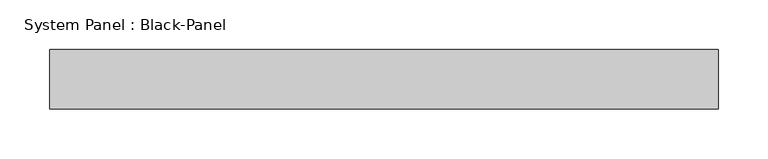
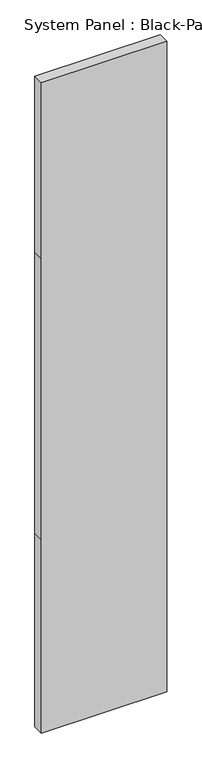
"""IFC4 building model written with IfcOpenShell, lengths in millimetres: plate geometry, System Panel : Black-Panel."""

from ifc_helpers import new_model, si_unit, frame, origin, place, context, project, spatial, polyline, outline, extrude, source, transform, mapped, element, save


def system_panel_black_panel_9c91f909(model_context):
    return source(origin(), model_context, "Body", "SweptSolid", [
        extrude(outline(polyline([(0.0, -337.5), (0.0, 337.5), (1100.0, 337.5), (2700.0, 337.5), (3700.0, 337.5), (3700.0, -337.5), (2700.0, -337.5), (1100.0, -337.5), (0.0, -337.5)])), frame((0.0, -10.5, 0.0), z_axis=(0.0, 1.0, 0.0), x_axis=(0.0, 0.0, 1.0)), (0.0, 0.0, 1.0), 60.0),
    ])


if __name__ == "__main__":
    model = new_model("IFC4")
    model_context = context("Model", 3, world=origin())
    ifc_project = project(units=[si_unit("LENGTHUNIT", "METRE", prefix="MILLI")], contexts=[model_context])
    site = spatial("IfcSite", under=ifc_project)
    building = spatial("IfcBuilding", under=site)
    placement = place(None, origin())
    system_panel_black_panel_shape = system_panel_black_panel_9c91f909(model_context)
    element("IfcPlate", 1, ObjectType="System Panel : Black-Panel", at=placement, inside=building, context=model_context, shape_type="MappedRepresentation", body=[
        mapped(system_panel_black_panel_shape, transform((0.0, 0.0, 0.0), x_axis=(1.0, 0.0, 0.0), y_axis=(0.0, 1.0, 0.0), z_axis=(0.0, 0.0, 1.0))),
    ])
    save(model, "model.ifc")
